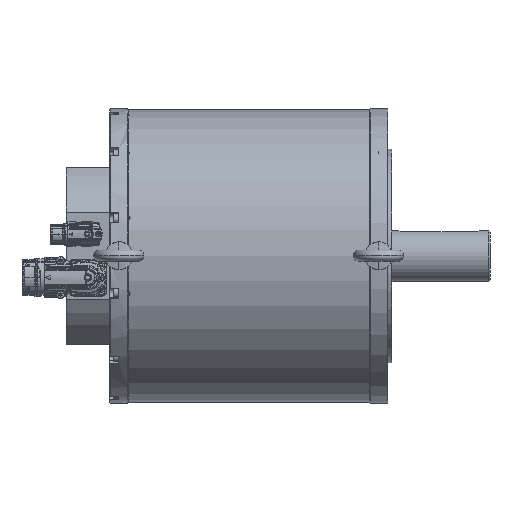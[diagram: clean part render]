
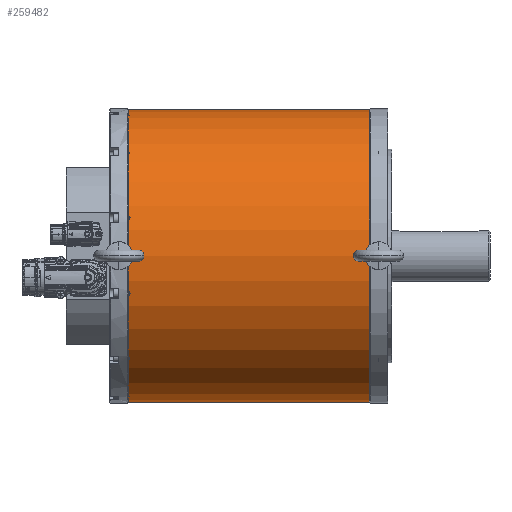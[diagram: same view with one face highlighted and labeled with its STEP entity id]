
A CAD part, top view. The second image highlights one B-rep face of the part: STEP entity #259482.
In plain terms, the highlighted cylindrical face has radius 158 mm (diameter 316 mm), a partial arc.
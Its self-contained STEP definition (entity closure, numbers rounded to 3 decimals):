
#259443=CARTESIAN_POINT('Axis2P3D Location',(130.,0.,0.)) ;
#259448=CARTESIAN_POINT('Line Origine',(130.,158.,0.)) ;
#259452=CARTESIAN_POINT('Cartesian Point',(0.,158.,0.)) ;
#259454=CARTESIAN_POINT('Cartesian Point',(260.,158.,0.)) ;
#259457=CARTESIAN_POINT('Axis2P3D Location',(0.,0.,0.)) ;
#259461=CARTESIAN_POINT('Cartesian Point',(0.,-158.,0.)) ;
#259464=CARTESIAN_POINT('Line Origine',(130.,-158.,0.)) ;
#259468=CARTESIAN_POINT('Cartesian Point',(260.,-158.,0.)) ;
#259471=CARTESIAN_POINT('Axis2P3D Location',(260.,0.,0.)) ;
#259444=DIRECTION('Axis2P3D Direction',(1.,0.,0.)) ;
#259445=DIRECTION('Axis2P3D XDirection',(0.,1.,0.)) ;
#259449=DIRECTION('Vector Direction',(1.,0.,0.)) ;
#259458=DIRECTION('Axis2P3D Direction',(1.,0.,0.)) ;
#259465=DIRECTION('Vector Direction',(1.,0.,0.)) ;
#259472=DIRECTION('Axis2P3D Direction',(1.,0.,0.)) ;
#259446=AXIS2_PLACEMENT_3D('Cylinder Axis2P3D',#259443,#259444,#259445) ;
#259459=AXIS2_PLACEMENT_3D('Circle Axis2P3D',#259457,#259458,$) ;
#259473=AXIS2_PLACEMENT_3D('Circle Axis2P3D',#259471,#259472,$) ;
#259477=ORIENTED_EDGE('Oriented Edge',*,*,#259456,.F.) ;
#259478=ORIENTED_EDGE('Oriented Edge',*,*,#259463,.T.) ;
#259479=ORIENTED_EDGE('Oriented Edge',*,*,#259470,.T.) ;
#259480=ORIENTED_EDGE('Oriented Edge',*,*,#259475,.F.) ;
#259450=VECTOR('Line Direction',#259449,1.) ;
#259466=VECTOR('Line Direction',#259465,1.) ;
#259482=ADVANCED_FACE('',(#259481),#259447,.T.) ;
#259460=CIRCLE('generated circle',#259459,158.) ;
#259474=CIRCLE('generated circle',#259473,158.) ;
#259447=CYLINDRICAL_SURFACE('generated cylinder',#259446,158.) ;
#259456=EDGE_CURVE('',#259453,#259455,#259451,.T.) ;
#259463=EDGE_CURVE('',#259453,#259462,#259460,.T.) ;
#259470=EDGE_CURVE('',#259462,#259469,#259467,.T.) ;
#259475=EDGE_CURVE('',#259455,#259469,#259474,.T.) ;
#259476=EDGE_LOOP('Oriented Loop',(#259477,#259478,#259479,#259480)) ;
#259481=FACE_OUTER_BOUND('Face Bound',#259476,.T.) ;
#259451=LINE('Line',#259448,#259450) ;
#259467=LINE('Line',#259464,#259466) ;
#259453=VERTEX_POINT('Vertex Point',#259452) ;
#259455=VERTEX_POINT('Vertex Point',#259454) ;
#259462=VERTEX_POINT('Vertex Point',#259461) ;
#259469=VERTEX_POINT('Vertex Point',#259468) ;
